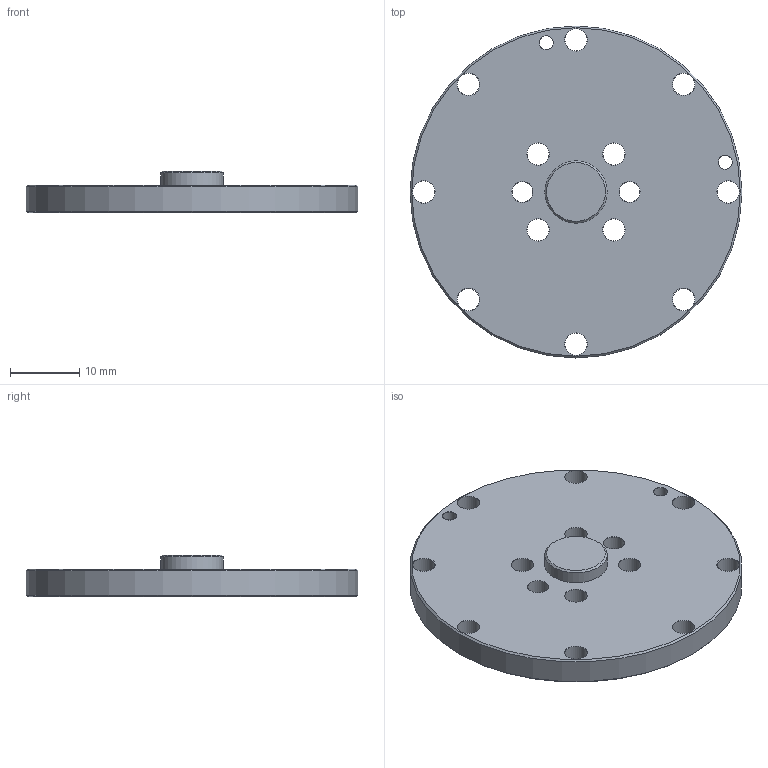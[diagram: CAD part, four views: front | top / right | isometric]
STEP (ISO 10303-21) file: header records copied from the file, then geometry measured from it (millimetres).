
FILE_DESCRIPTION (( 'STEP AP214' ), '1' );
FILE_NAME ('ROK-P006_CONFIG-ADAPTER_REV-A.step', '2022-11-08T11:55:00', ( '' ), ( '' ), 'SwSTEP 2.0', 'SolidWorks 2022', '' );
FILE_SCHEMA (( 'AUTOMOTIVE_DESIGN' ));
Length unit declared in the file: millimetre
Products named in the file (1): ROK-P006_CONFIG-ADAPTER_REV-A
Bounding box: 48 x 48 x 6 mm (x, y, z)
Volume: 6823.5 mm3; surface area: 4576.8 mm2
Topology: 1 solids, 1 shells, 56 faces, 124 edges, 71 vertices
Faces by surface type: cone 35, cylinder 18, plane 3
Full cylindrical faces by diameter (mm): 2 x2, 3 x2, 3.2 x12, 9 x1, 48 x1
Entity records: 1515 total; most frequent: DIRECTION 256, CARTESIAN_POINT 199, EDGE_LOOP 142, ORIENTED_EDGE 142, AXIS2_PLACEMENT_3D 128, FACE_OUTER_BOUND 74, EDGE_CURVE 71, VERTEX_POINT 71
